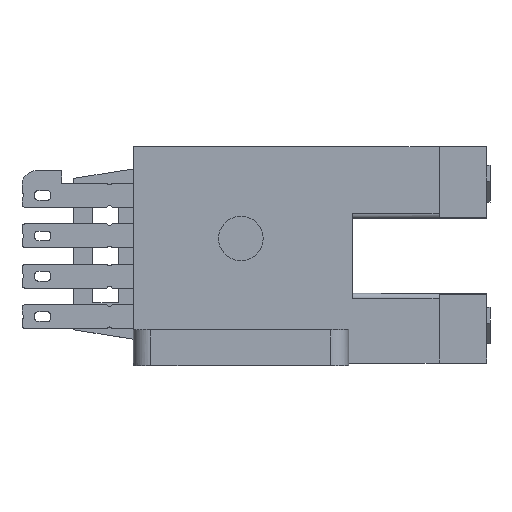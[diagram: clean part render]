
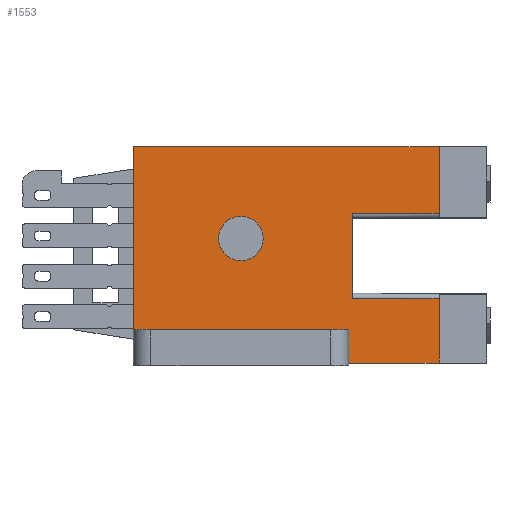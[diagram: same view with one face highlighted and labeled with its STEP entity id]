
A CAD part, top view. The second image highlights one B-rep face of the part: STEP entity #1553.
In plain terms, the highlighted planar face has unit normal (0, 0, 1).
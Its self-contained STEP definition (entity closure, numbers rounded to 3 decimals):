
#103=DIRECTION('',(-1.,-0.003,0.));
#104=VECTOR('',#103,5.45);
#105=CARTESIAN_POINT('',(19.2,2.668,6.484));
#106=LINE('',#105,#104);
#107=DIRECTION('',(0.,-1.,0.));
#108=VECTOR('',#107,5.297);
#109=CARTESIAN_POINT('',(13.75,2.649,6.484));
#110=LINE('',#109,#108);
#111=DIRECTION('',(1.,-0.003,0.));
#112=VECTOR('',#111,5.45);
#113=CARTESIAN_POINT('',(13.75,-2.649,6.484));
#114=LINE('',#113,#112);
#115=DIRECTION('',(-1.,0.,0.));
#116=VECTOR('',#115,5.68);
#117=CARTESIAN_POINT('',(19.2,-6.73,6.484));
#118=LINE('',#117,#116);
#119=DIRECTION('',(-1.,0.,0.));
#120=VECTOR('',#119,13.52);
#121=CARTESIAN_POINT('',(13.52,-4.6,6.484));
#122=LINE('',#121,#120);
#123=DIRECTION('',(1.,-0.002,0.));
#124=VECTOR('',#123,19.2);
#125=CARTESIAN_POINT('',(0.,6.9,
6.484));
#126=LINE('',#125,#124);
#127=DIRECTION('',(0.,-1.,0.));
#128=VECTOR('',#127,4.199);
#129=CARTESIAN_POINT('',(19.2,6.866,6.484));
#130=LINE('',#129,#128);
#131=CARTESIAN_POINT('',(6.75,1.1,6.484));
#132=DIRECTION('',(0.,0.,1.));
#133=DIRECTION('',(0.,-1.,0.));
#134=AXIS2_PLACEMENT_3D('',#131,#132,#133);
#136=CARTESIAN_POINT('',(6.75,1.1,6.484));
#137=DIRECTION('',(0.,0.,1.));
#138=DIRECTION('',(0.,1.,0.));
#139=AXIS2_PLACEMENT_3D('',#136,#137,#138);
#311=DIRECTION('',(0.,-1.,0.));
#312=VECTOR('',#311,11.5);
#313=CARTESIAN_POINT('',(0.,6.9,
6.484));
#314=LINE('',#313,#312);
#611=DIRECTION('',(0.,-1.,0.));
#612=VECTOR('',#611,2.13);
#613=CARTESIAN_POINT('',(13.52,-4.6,6.484));
#614=LINE('',#613,#612);
#989=DIRECTION('',(0.,1.,0.));
#990=VECTOR('',#989,4.062);
#991=CARTESIAN_POINT('',(19.2,-6.73,6.484));
#992=LINE('',#991,#990);
#1103=CARTESIAN_POINT('',(6.75,-0.3,
6.484));
#1104=CARTESIAN_POINT('',(6.75,2.5,6.484));
#1105=VERTEX_POINT('',#1103);
#1106=VERTEX_POINT('',#1104);
#1107=CARTESIAN_POINT('',(19.2,2.668,6.484));
#1108=CARTESIAN_POINT('',(13.75,2.649,6.484));
#1109=VERTEX_POINT('',#1107);
#1110=VERTEX_POINT('',#1108);
#1111=CARTESIAN_POINT('',(13.75,-2.649,6.484));
#1112=VERTEX_POINT('',#1111);
#1113=CARTESIAN_POINT('',(19.2,-2.668,6.484));
#1114=VERTEX_POINT('',#1113);
#1115=CARTESIAN_POINT('',(19.2,-6.73,6.484));
#1116=VERTEX_POINT('',#1115);
#1117=CARTESIAN_POINT('',(13.52,-6.73,6.484));
#1118=VERTEX_POINT('',#1117);
#1119=CARTESIAN_POINT('',(13.52,-4.6,6.484));
#1120=VERTEX_POINT('',#1119);
#1121=CARTESIAN_POINT('',(0.,-4.6,
6.484));
#1122=VERTEX_POINT('',#1121);
#1123=CARTESIAN_POINT('',(0.,6.9,
6.484));
#1124=VERTEX_POINT('',#1123);
#1125=CARTESIAN_POINT('',(19.2,6.866,6.484));
#1126=VERTEX_POINT('',#1125);
#1522=CARTESIAN_POINT('',(0.,0.,6.484));
#1523=DIRECTION('',(0.,0.,1.));
#1524=DIRECTION('',(0.,-1.,0.));
#1525=AXIS2_PLACEMENT_3D('',#1522,#1523,#1524);
#1526=PLANE('',#1525);
#1528=ORIENTED_EDGE('',*,*,#1527,.T.);
#1529=ORIENTED_EDGE('',*,*,#1461,.T.);
#1531=ORIENTED_EDGE('',*,*,#1530,.T.);
#1533=ORIENTED_EDGE('',*,*,#1532,.F.);
#1534=ORIENTED_EDGE('',*,*,#1505,.T.);
#1536=ORIENTED_EDGE('',*,*,#1535,.F.);
#1538=ORIENTED_EDGE('',*,*,#1537,.T.);
#1540=ORIENTED_EDGE('',*,*,#1539,.F.);
#1542=ORIENTED_EDGE('',*,*,#1541,.T.);
#1544=ORIENTED_EDGE('',*,*,#1543,.T.);
#1545=EDGE_LOOP('',(#1528,#1529,#1531,#1533,#1534,#1536,#1538,#1540,#1542,
#1544));
#1546=FACE_OUTER_BOUND('',#1545,.F.);
#1548=ORIENTED_EDGE('',*,*,#1547,.T.);
#1550=ORIENTED_EDGE('',*,*,#1549,.T.);
#1551=EDGE_LOOP('',(#1548,#1550));
#1552=FACE_BOUND('',#1551,.F.);
#1553=ADVANCED_FACE('',(#1546,#1552),#1526,.T.);
#135=CIRCLE('',#134,1.4);
#140=CIRCLE('',#139,1.4);
#1461=EDGE_CURVE('',#1110,#1112,#110,.T.);
#1505=EDGE_CURVE('',#1116,#1118,#118,.T.);
#1527=EDGE_CURVE('',#1109,#1110,#106,.T.);
#1530=EDGE_CURVE('',#1112,#1114,#114,.T.);
#1532=EDGE_CURVE('',#1116,#1114,#992,.T.);
#1535=EDGE_CURVE('',#1120,#1118,#614,.T.);
#1537=EDGE_CURVE('',#1120,#1122,#122,.T.);
#1539=EDGE_CURVE('',#1124,#1122,#314,.T.);
#1541=EDGE_CURVE('',#1124,#1126,#126,.T.);
#1543=EDGE_CURVE('',#1126,#1109,#130,.T.);
#1547=EDGE_CURVE('',#1105,#1106,#135,.T.);
#1549=EDGE_CURVE('',#1106,#1105,#140,.T.);
